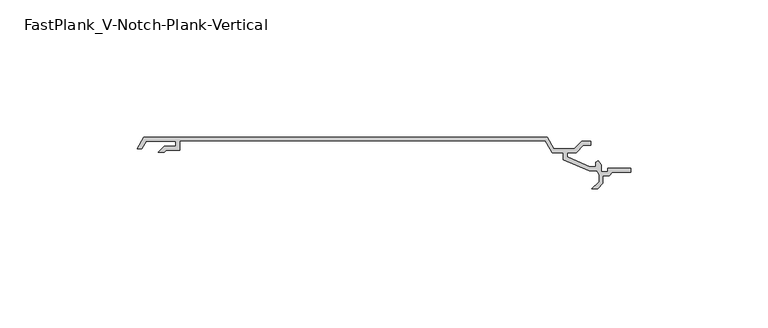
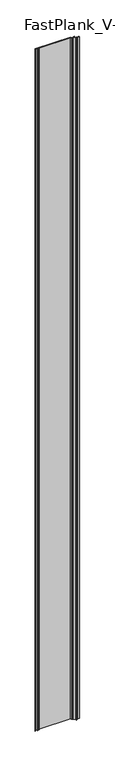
"""IFC4 building model written with IfcOpenShell, lengths in millimetres: plate geometry, FastPlank_V-Notch-Plank-Vertical : P44V-V-Notch-4″-Plank-Vertical."""

import ifcopenshell
import ifcopenshell.guid

model = None  # the IFC model being written
_history = None  # IfcOwnerHistory: only IFC2X3 demands one
_inside = {}  # id of a spatial element -> (the spatial element, [elements in it])
_under = {}  # id of a project, library or spatial element -> (it, [spatial elements below it])
_declared = {}  # id of a project -> (the project, [libraries it declares])
_typed = {}  # id of a type object -> (the type object, [elements of that type])
_made_of = {}  # id of a material, layer set ... -> (it, [elements and type objects made of it])


def new_model(schema):
    """Start an empty IFC model of exactly this schema.

    Asked for "IFC4X3", IfcOpenShell would pick the latest addendum, in which some entities
    have other attributes; the version numbers below select the first issue.
    IFC2X3 requires an IfcOwnerHistory on every rooted entity: one is made here for all.
    """
    global model, _history
    if schema == "IFC4X3":
        model = ifcopenshell.file(schema_version=(4, 3, 0, 0))
    else:
        model = ifcopenshell.file(schema=schema)
    _inside.clear()
    _under.clear()
    _declared.clear()
    _typed.clear()
    _made_of.clear()
    _history = None
    if model.schema == "IFC2X3":
        org = make("IfcOrganization", Name="unknown")
        user = make(
            "IfcPersonAndOrganization",
            ThePerson=make("IfcPerson", FamilyName="unknown"),
            TheOrganization=org,
        )
        app = make(
            "IfcApplication",
            ApplicationDeveloper=org,
            Version="unknown",
            ApplicationFullName="unknown",
            ApplicationIdentifier="unknown",
        )
        _history = make(
            "IfcOwnerHistory",
            OwningUser=user,
            OwningApplication=app,
            ChangeAction="ADDED",
            CreationDate=0,
        )
    return model


def make(cls, **values):
    """One entity of the class cls with the attributes given. An attribute that is None is left unset."""
    return model.create_entity(
        cls, **{name: value for name, value in values.items() if value is not None}
    )


def rooted(cls, **values):
    """An entity with a GlobalId (a new one), such as an element, a storey or a relation."""
    return make(cls, GlobalId=ifcopenshell.guid.new(), OwnerHistory=_history, **values)


def si_unit(unit_type, name, prefix=None):
    """IfcSIUnit, for example si_unit("LENGTHUNIT", "METRE", prefix="MILLI")."""
    return make("IfcSIUnit", UnitType=unit_type, Prefix=prefix, Name=name)


def assignment(units):
    """IfcUnitAssignment: the units of a project."""
    return None if units is None else make("IfcUnitAssignment", Units=units)


def point(xyz):
    """IfcCartesianPoint."""
    return None if xyz is None else make("IfcCartesianPoint", Coordinates=xyz)


def direction(xyz):
    """IfcDirection."""
    return None if xyz is None else make("IfcDirection", DirectionRatios=xyz)


def frame(location, z_axis=None, x_axis=None):
    """IfcAxis2Placement3D, a coordinate frame: its origin and axes. An axis left out is left unset."""
    return make(
        "IfcAxis2Placement3D",
        Location=point(location),
        Axis=direction(z_axis),
        RefDirection=direction(x_axis),
    )


def origin():
    """The frame at (0, 0, 0) with its axes left unset."""
    return frame((0.0, 0.0, 0.0))


def origin_with_axes():
    """The frame at (0, 0, 0) with the z axis (0, 0, 1) and the x axis (1, 0, 0) written out."""
    return frame((0.0, 0.0, 0.0), z_axis=(0.0, 0.0, 1.0), x_axis=(1.0, 0.0, 0.0))


def place(relative_to, where):
    """IfcLocalPlacement: puts the frame where relative to a parent placement (None: the world)."""
    return make(
        "IfcLocalPlacement", PlacementRelTo=relative_to, RelativePlacement=where
    )


def context(
    kind, dimensions, precision=None, world=None, true_north=None, identifier=None
):
    """IfcGeometricRepresentationContext, for example the 3D "Model" context."""
    return make(
        "IfcGeometricRepresentationContext",
        ContextIdentifier=identifier,
        ContextType=kind,
        CoordinateSpaceDimension=dimensions,
        Precision=precision,
        WorldCoordinateSystem=world,
        TrueNorth=true_north,
    )


def project(units=None, contexts=None):
    """IfcProject with its units and contexts."""
    return rooted(
        "IfcProject",
        Name="project",
        RepresentationContexts=contexts,
        UnitsInContext=assignment(units),
    )


def spatial(cls, under=None, at=None, **own):
    """A site, building, storey or space (cls), placed at a placement, below another one or the project."""
    s = rooted(cls, ObjectPlacement=at, **own)
    if under is not None:
        _under.setdefault(under.id(), (under, []))[1].append(s)
    return s


def polyline(points):
    """IfcPolyline through the points."""
    return make("IfcPolyline", Points=[point(p) for p in points])


def outline(outer, holes=None, kind="AREA"):
    """IfcArbitraryClosedProfileDef: a profile drawn as a closed curve; with holes, ...WithVoids."""
    if holes is None:
        return make("IfcArbitraryClosedProfileDef", ProfileType=kind, OuterCurve=outer)
    return make(
        "IfcArbitraryProfileDefWithVoids",
        ProfileType=kind,
        OuterCurve=outer,
        InnerCurves=holes,
    )


def extrude(swept, where, along, depth):
    """IfcExtrudedAreaSolid: the profile swept, set in the frame where, extruded along a direction by depth."""
    return make(
        "IfcExtrudedAreaSolid",
        SweptArea=swept,
        Position=where,
        ExtrudedDirection=direction(along),
        Depth=depth,
    )


def shape(context_of_items, identifier, shape_type, items):
    """IfcShapeRepresentation: the items that make up one representation, for example the "Body"."""
    return make(
        "IfcShapeRepresentation",
        ContextOfItems=context_of_items,
        RepresentationIdentifier=identifier,
        RepresentationType=shape_type,
        Items=items,
    )


def source(mapping_origin, context_of_items, identifier, shape_type, items):
    """IfcRepresentationMap: a shape defined once, which mapped items show again and again."""
    return make(
        "IfcRepresentationMap",
        MappingOrigin=mapping_origin,
        MappedRepresentation=shape(context_of_items, identifier, shape_type, items),
    )


def transform(
    local_origin,
    x_axis=None,
    y_axis=None,
    z_axis=None,
    scale=None,
    scale2=None,
    scale3=None,
    uniform=True,
):
    """IfcCartesianTransformationOperator3D, or its non-uniform kind. x_axis, y_axis, z_axis: its Axis1, 2, 3."""
    if uniform:
        return make(
            "IfcCartesianTransformationOperator3D",
            Axis1=direction(x_axis),
            Axis2=direction(y_axis),
            LocalOrigin=point(local_origin),
            Scale=scale,
            Axis3=direction(z_axis),
        )
    return make(
        "IfcCartesianTransformationOperator3DnonUniform",
        Axis1=direction(x_axis),
        Axis2=direction(y_axis),
        LocalOrigin=point(local_origin),
        Scale=scale,
        Axis3=direction(z_axis),
        Scale2=scale2,
        Scale3=scale3,
    )


def mapped(mapping_source, mapping_target):
    """IfcMappedItem: shows the shape of a source again, moved by a transform."""
    return make(
        "IfcMappedItem", MappingSource=mapping_source, MappingTarget=mapping_target
    )


def made_of(thing, what):
    """Note that an element or type object is made of a material, layer set ...; save() writes the relation."""
    if what is not None:
        _made_of.setdefault(what.id(), (what, []))[1].append(thing)
    return thing


def element(
    cls,
    number,
    at=None,
    inside=None,
    cuts=None,
    type_object=None,
    material=None,
    context=None,
    identifier="Body",
    shape_type=None,
    held_by="IfcProductDefinitionShape",
    body=None,
    shapes=None,
    **own,
):
    """One element of the class cls, such as IfcWall. Its Tag is "e" and its number.

    at: its placement. inside: the storey or other place that contains it. cuts: it is an
    opening in that element (IfcRelVoidsElement). A single representation is given by context,
    identifier, shape_type and body (its items); several are given by shapes. held_by: the class
    of the entity that holds the representations. save() writes the other relations.
    """
    e = rooted(cls, Tag="e%d" % number, ObjectPlacement=at, **own)
    if body is not None:
        shapes = [shape(context, identifier, shape_type, body)]
    if shapes is not None:
        e.Representation = make(held_by, Representations=shapes)
    if inside is not None:
        _inside.setdefault(inside.id(), (inside, []))[1].append(e)
    if cuts is not None:
        rooted(
            "IfcRelVoidsElement", RelatingBuildingElement=cuts, RelatedOpeningElement=e
        )
    if type_object is not None:
        _typed.setdefault(type_object.id(), (type_object, []))[1].append(e)
    return made_of(e, material)


def aggregate(whole, parts):
    """IfcRelAggregates: a whole, such as a stair, and the parts it consists of."""
    return rooted("IfcRelAggregates", RelatingObject=whole, RelatedObjects=parts)


def save(model, path):
    """Write the relations noted so far, then the file.

    IfcRelAggregates (storeys below a building ...), IfcRelContainedInSpatialStructure (elements
    in a storey), IfcRelDefinesByType, IfcRelAssociatesMaterial and IfcRelDeclares: one each for
    every whole, place, type object, material and project.
    """
    for whole, parts in _under.values():
        aggregate(whole, parts)
    for where, things in _inside.values():
        rooted(
            "IfcRelContainedInSpatialStructure",
            RelatedElements=things,
            RelatingStructure=where,
        )
    for kind, things in _typed.values():
        rooted("IfcRelDefinesByType", RelatedObjects=things, RelatingType=kind)
    for what, things in _made_of.values():
        rooted("IfcRelAssociatesMaterial", RelatedObjects=things, RelatingMaterial=what)
    for by, libraries in _declared.values():
        rooted("IfcRelDeclares", RelatingContext=by, RelatedDefinitions=libraries)
    model.write(path)


def fastplank_v_notch_plank_vertical_a95fba1c(model_context):
    return source(origin(), model_context, "Body", "SweptSolid", [
        extrude(outline(polyline([(-60.7136963, 14.0246043), (-65.6122889, 14.0246043), (-66.3205996, 13.3162936), (-68.4391503, 13.3162936), (-66.2308425, 15.5246013), (-62.217242, 15.5246013), (-62.217242, 17.3745976), (-72.9382206, 17.3745976), (-74.4680064, 14.7246029), (-76.2000002, 14.7246029), (-73.8042979, 18.8745946), (73.3040847, 18.8745946), (75.7000836, 14.7246029), (83.2147974, 14.7246029), (85.8647921, 17.3745976), (89.1726603, 17.3745976), (89.1726603, 15.8746006), (86.4861112, 15.8746006), (83.8361165, 13.2246059), (80.6486483, 13.2246059), (80.6486483, 11.708109), (88.8522204, 8.0338609), (91.0558187, 8.0338609), (91.0558187, 9.7191932), (91.8227938, 10.3184198), (92.9909784, 8.8232117), (92.9909784, 6.2821578), (95.4578752, 6.2821578), (95.4578752, 7.5321553), (103.7909905, 7.5321553), (103.7909905, 6.0321583), (96.9427311, 6.0321583), (95.8437724, 4.7821608), (93.5150863, 4.7821608), (93.5150863, 2.1334241), (91.6394468, 0.0), (89.5213564, 0.0), (92.2150889, 2.6937325), (92.2150889, 5.0811989), (91.3763923, 6.5338639), (88.5609185, 6.5338639), (79.1739678, 10.7243127), (79.1739678, 13.2246059), (75.0649995, 13.2246059), (72.5535309, 17.5745972), (-60.7136963, 17.5745972), (-60.7136963, 14.0246043)])), origin_with_axes(), (0.0, 0.0, 1.0), 3024.7636711),
    ])


if __name__ == "__main__":
    model = new_model("IFC4")
    model_context = context("Model", 3, world=origin())
    ifc_project = project(units=[si_unit("LENGTHUNIT", "METRE", prefix="MILLI")], contexts=[model_context])
    site = spatial("IfcSite", under=ifc_project)
    building = spatial("IfcBuilding", under=site)
    placement = place(None, origin())
    fastplank_v_notch_plank_vertical_shape = fastplank_v_notch_plank_vertical_a95fba1c(model_context)
    element("IfcPlate", 1, ObjectType="FastPlank_V-Notch-Plank-Vertical : P44V-V-Notch-4″-Plank-Vertical", at=placement, inside=building, context=model_context, shape_type="MappedRepresentation", body=[
        mapped(fastplank_v_notch_plank_vertical_shape, transform((0.0, 0.0, 0.0), x_axis=(1.0, 0.0, 0.0), y_axis=(0.0, 1.0, 0.0), z_axis=(0.0, 0.0, 1.0))),
    ])
    save(model, "model.ifc")
